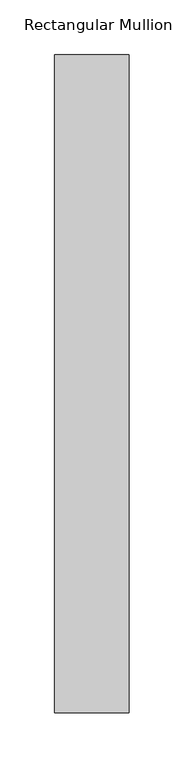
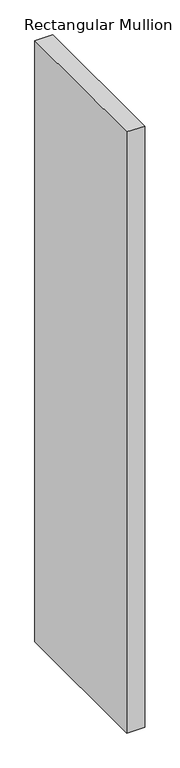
"""IFC4 building model written with IfcOpenShell, lengths in millimetres: member geometry, Rectangular Mullion : DucoSun Cubic Design louvre 600."""

import ifcopenshell
import ifcopenshell.guid

model = None  # the IFC model being written
_history = None  # IfcOwnerHistory: only IFC2X3 demands one
_inside = {}  # id of a spatial element -> (the spatial element, [elements in it])
_under = {}  # id of a project, library or spatial element -> (it, [spatial elements below it])
_declared = {}  # id of a project -> (the project, [libraries it declares])
_typed = {}  # id of a type object -> (the type object, [elements of that type])
_made_of = {}  # id of a material, layer set ... -> (it, [elements and type objects made of it])


def new_model(schema):
    """Start an empty IFC model of exactly this schema.

    Asked for "IFC4X3", IfcOpenShell would pick the latest addendum, in which some entities
    have other attributes; the version numbers below select the first issue.
    IFC2X3 requires an IfcOwnerHistory on every rooted entity: one is made here for all.
    """
    global model, _history
    if schema == "IFC4X3":
        model = ifcopenshell.file(schema_version=(4, 3, 0, 0))
    else:
        model = ifcopenshell.file(schema=schema)
    _inside.clear()
    _under.clear()
    _declared.clear()
    _typed.clear()
    _made_of.clear()
    _history = None
    if model.schema == "IFC2X3":
        org = make("IfcOrganization", Name="unknown")
        user = make(
            "IfcPersonAndOrganization",
            ThePerson=make("IfcPerson", FamilyName="unknown"),
            TheOrganization=org,
        )
        app = make(
            "IfcApplication",
            ApplicationDeveloper=org,
            Version="unknown",
            ApplicationFullName="unknown",
            ApplicationIdentifier="unknown",
        )
        _history = make(
            "IfcOwnerHistory",
            OwningUser=user,
            OwningApplication=app,
            ChangeAction="ADDED",
            CreationDate=0,
        )
    return model


def make(cls, **values):
    """One entity of the class cls with the attributes given. An attribute that is None is left unset."""
    return model.create_entity(
        cls, **{name: value for name, value in values.items() if value is not None}
    )


def rooted(cls, **values):
    """An entity with a GlobalId (a new one), such as an element, a storey or a relation."""
    return make(cls, GlobalId=ifcopenshell.guid.new(), OwnerHistory=_history, **values)


def si_unit(unit_type, name, prefix=None):
    """IfcSIUnit, for example si_unit("LENGTHUNIT", "METRE", prefix="MILLI")."""
    return make("IfcSIUnit", UnitType=unit_type, Prefix=prefix, Name=name)


def assignment(units):
    """IfcUnitAssignment: the units of a project."""
    return None if units is None else make("IfcUnitAssignment", Units=units)


def point(xyz):
    """IfcCartesianPoint."""
    return None if xyz is None else make("IfcCartesianPoint", Coordinates=xyz)


def direction(xyz):
    """IfcDirection."""
    return None if xyz is None else make("IfcDirection", DirectionRatios=xyz)


def frame(location, z_axis=None, x_axis=None):
    """IfcAxis2Placement3D, a coordinate frame: its origin and axes. An axis left out is left unset."""
    return make(
        "IfcAxis2Placement3D",
        Location=point(location),
        Axis=direction(z_axis),
        RefDirection=direction(x_axis),
    )


def origin():
    """The frame at (0, 0, 0) with its axes left unset."""
    return frame((0.0, 0.0, 0.0))


def place(relative_to, where):
    """IfcLocalPlacement: puts the frame where relative to a parent placement (None: the world)."""
    return make(
        "IfcLocalPlacement", PlacementRelTo=relative_to, RelativePlacement=where
    )


def context(
    kind, dimensions, precision=None, world=None, true_north=None, identifier=None
):
    """IfcGeometricRepresentationContext, for example the 3D "Model" context."""
    return make(
        "IfcGeometricRepresentationContext",
        ContextIdentifier=identifier,
        ContextType=kind,
        CoordinateSpaceDimension=dimensions,
        Precision=precision,
        WorldCoordinateSystem=world,
        TrueNorth=true_north,
    )


def project(units=None, contexts=None):
    """IfcProject with its units and contexts."""
    return rooted(
        "IfcProject",
        Name="project",
        RepresentationContexts=contexts,
        UnitsInContext=assignment(units),
    )


def spatial(cls, under=None, at=None, **own):
    """A site, building, storey or space (cls), placed at a placement, below another one or the project."""
    s = rooted(cls, ObjectPlacement=at, **own)
    if under is not None:
        _under.setdefault(under.id(), (under, []))[1].append(s)
    return s


def polyline(points):
    """IfcPolyline through the points."""
    return make("IfcPolyline", Points=[point(p) for p in points])


def outline(outer, holes=None, kind="AREA"):
    """IfcArbitraryClosedProfileDef: a profile drawn as a closed curve; with holes, ...WithVoids."""
    if holes is None:
        return make("IfcArbitraryClosedProfileDef", ProfileType=kind, OuterCurve=outer)
    return make(
        "IfcArbitraryProfileDefWithVoids",
        ProfileType=kind,
        OuterCurve=outer,
        InnerCurves=holes,
    )


def extrude(swept, where, along, depth):
    """IfcExtrudedAreaSolid: the profile swept, set in the frame where, extruded along a direction by depth."""
    return make(
        "IfcExtrudedAreaSolid",
        SweptArea=swept,
        Position=where,
        ExtrudedDirection=direction(along),
        Depth=depth,
    )


def shape(context_of_items, identifier, shape_type, items):
    """IfcShapeRepresentation: the items that make up one representation, for example the "Body"."""
    return make(
        "IfcShapeRepresentation",
        ContextOfItems=context_of_items,
        RepresentationIdentifier=identifier,
        RepresentationType=shape_type,
        Items=items,
    )


def source(mapping_origin, context_of_items, identifier, shape_type, items):
    """IfcRepresentationMap: a shape defined once, which mapped items show again and again."""
    return make(
        "IfcRepresentationMap",
        MappingOrigin=mapping_origin,
        MappedRepresentation=shape(context_of_items, identifier, shape_type, items),
    )


def transform(
    local_origin,
    x_axis=None,
    y_axis=None,
    z_axis=None,
    scale=None,
    scale2=None,
    scale3=None,
    uniform=True,
):
    """IfcCartesianTransformationOperator3D, or its non-uniform kind. x_axis, y_axis, z_axis: its Axis1, 2, 3."""
    if uniform:
        return make(
            "IfcCartesianTransformationOperator3D",
            Axis1=direction(x_axis),
            Axis2=direction(y_axis),
            LocalOrigin=point(local_origin),
            Scale=scale,
            Axis3=direction(z_axis),
        )
    return make(
        "IfcCartesianTransformationOperator3DnonUniform",
        Axis1=direction(x_axis),
        Axis2=direction(y_axis),
        LocalOrigin=point(local_origin),
        Scale=scale,
        Axis3=direction(z_axis),
        Scale2=scale2,
        Scale3=scale3,
    )


def mapped(mapping_source, mapping_target):
    """IfcMappedItem: shows the shape of a source again, moved by a transform."""
    return make(
        "IfcMappedItem", MappingSource=mapping_source, MappingTarget=mapping_target
    )


def made_of(thing, what):
    """Note that an element or type object is made of a material, layer set ...; save() writes the relation."""
    if what is not None:
        _made_of.setdefault(what.id(), (what, []))[1].append(thing)
    return thing


def element(
    cls,
    number,
    at=None,
    inside=None,
    cuts=None,
    type_object=None,
    material=None,
    context=None,
    identifier="Body",
    shape_type=None,
    held_by="IfcProductDefinitionShape",
    body=None,
    shapes=None,
    **own,
):
    """One element of the class cls, such as IfcWall. Its Tag is "e" and its number.

    at: its placement. inside: the storey or other place that contains it. cuts: it is an
    opening in that element (IfcRelVoidsElement). A single representation is given by context,
    identifier, shape_type and body (its items); several are given by shapes. held_by: the class
    of the entity that holds the representations. save() writes the other relations.
    """
    e = rooted(cls, Tag="e%d" % number, ObjectPlacement=at, **own)
    if body is not None:
        shapes = [shape(context, identifier, shape_type, body)]
    if shapes is not None:
        e.Representation = make(held_by, Representations=shapes)
    if inside is not None:
        _inside.setdefault(inside.id(), (inside, []))[1].append(e)
    if cuts is not None:
        rooted(
            "IfcRelVoidsElement", RelatingBuildingElement=cuts, RelatedOpeningElement=e
        )
    if type_object is not None:
        _typed.setdefault(type_object.id(), (type_object, []))[1].append(e)
    return made_of(e, material)


def aggregate(whole, parts):
    """IfcRelAggregates: a whole, such as a stair, and the parts it consists of."""
    return rooted("IfcRelAggregates", RelatingObject=whole, RelatedObjects=parts)


def save(model, path):
    """Write the relations noted so far, then the file.

    IfcRelAggregates (storeys below a building ...), IfcRelContainedInSpatialStructure (elements
    in a storey), IfcRelDefinesByType, IfcRelAssociatesMaterial and IfcRelDeclares: one each for
    every whole, place, type object, material and project.
    """
    for whole, parts in _under.values():
        aggregate(whole, parts)
    for where, things in _inside.values():
        rooted(
            "IfcRelContainedInSpatialStructure",
            RelatedElements=things,
            RelatingStructure=where,
        )
    for kind, things in _typed.values():
        rooted("IfcRelDefinesByType", RelatedObjects=things, RelatingType=kind)
    for what, things in _made_of.values():
        rooted("IfcRelAssociatesMaterial", RelatedObjects=things, RelatingMaterial=what)
    for by, libraries in _declared.values():
        rooted("IfcRelDeclares", RelatingContext=by, RelatedDefinitions=libraries)
    model.write(path)


def rectangular_mullion_e44586b0(model_context):
    return source(origin(), model_context, "Body", "SweptSolid", [
        extrude(outline(polyline([(0.0, 600.0), (0.0, 0.0), (-68.0, 0.0), (-68.0, 600.0), (0.0, 600.0)])), frame((0.0, 0.0, -2400.0), z_axis=(0.0, 0.0, 1.0), x_axis=(1.0, 0.0, 0.0)), (0.0, 0.0, 1.0), 2400.0),
    ])


if __name__ == "__main__":
    model = new_model("IFC4")
    model_context = context("Model", 3, world=origin())
    ifc_project = project(units=[si_unit("LENGTHUNIT", "METRE", prefix="MILLI")], contexts=[model_context])
    site = spatial("IfcSite", under=ifc_project)
    building = spatial("IfcBuilding", under=site)
    placement = place(None, origin())
    rectangular_mullion_shape = rectangular_mullion_e44586b0(model_context)
    element("IfcMember", 1, ObjectType="Rectangular Mullion : DucoSun Cubic Design louvre 600", at=placement, inside=building, context=model_context, shape_type="MappedRepresentation", body=[
        mapped(rectangular_mullion_shape, transform((0.0, 0.0, 0.0), x_axis=(1.0, 0.0, 0.0), y_axis=(0.0, 1.0, 0.0), z_axis=(0.0, 0.0, 1.0))),
    ])
    save(model, "model.ifc")
